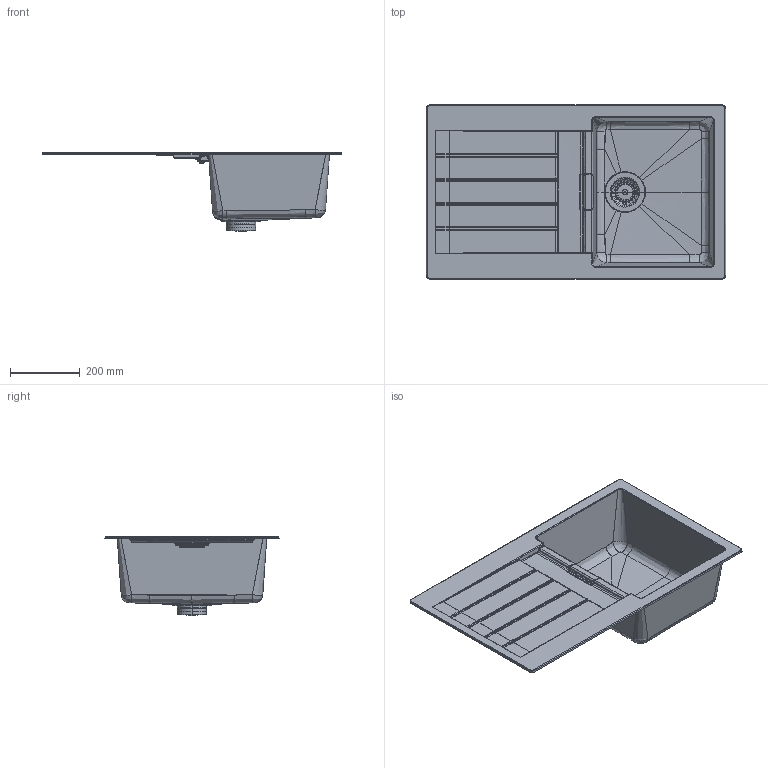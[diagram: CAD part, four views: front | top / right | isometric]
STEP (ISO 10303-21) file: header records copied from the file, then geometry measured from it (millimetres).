
FILE_DESCRIPTION(/* description */ (''),/* implementation_level */ '2;1');
FILE_NAME(/* name */ 'SIGD100',/* time_stamp */ '2014-11-04T10:45:42+01:00',/* author */ (''),/* organization */ (''),/* preprocessor_version */ 'ST-DEVELOPER v15',/* originating_system */ '',/* authorisation */ '');
FILE_SCHEMA (('AUTOMOTIVE_DESIGN'));
Length unit declared in the file: millimetre
Products named in the file (1): Document
Bounding box: 860 x 500 x 227.2 mm (x, y, z)
Volume: 31105.3 mm3; surface area: 828341.5 mm2
Topology: 3 solids, 436 shells, 614 faces, 2092 edges, 1869 vertices
Faces by surface type: bspline 565, plane 49
Entity records: 79583 total; most frequent: CARTESIAN_POINT 67746, ORIENTED_EDGE 2678, EDGE_CURVE 2082, VERTEX_POINT 1869, B_SPLINE_CURVE_WITH_KNOTS 1511, EDGE_LOOP 698, ADVANCED_FACE 614, FACE_OUTER_BOUND 614
